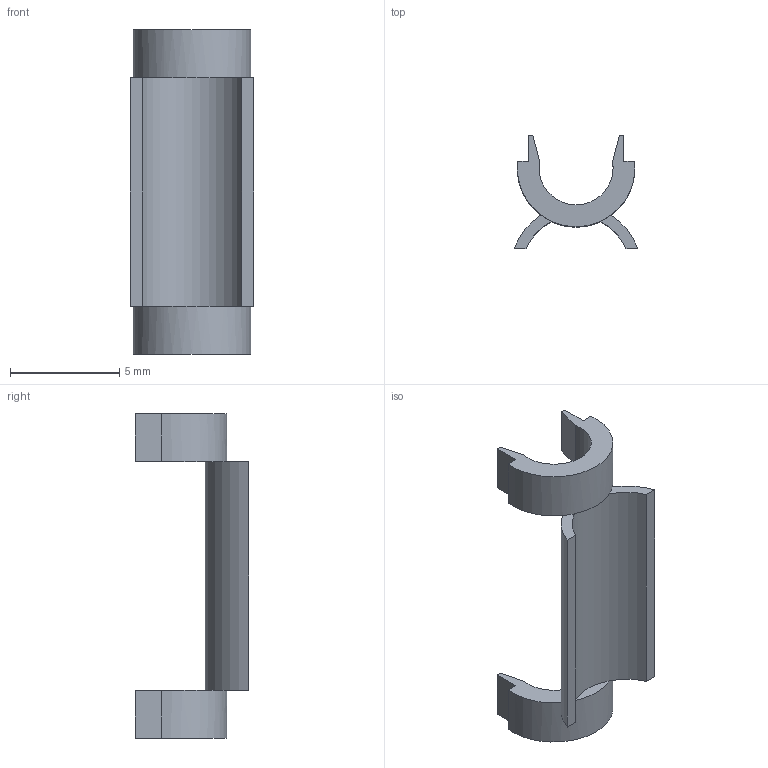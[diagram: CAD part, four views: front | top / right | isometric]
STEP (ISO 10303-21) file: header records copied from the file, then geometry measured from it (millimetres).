
FILE_DESCRIPTION(/* description */ (''),/* implementation_level */ '2;1');
FILE_NAME(/* name */ 'F:\2020 Ver._Content Center\00_Download Data (\X2\FF76FF80FF9BFF78FF9EFF83FF9EFF70FF80FF70\X0\)\25_M4系 ｱｸｾｻﾘ\NHLF04.stp',/* time_stamp */ '2021-05-10T14:03:25+09:00',/* author */ ('TONO-K3-010'),/* organization */ (''),/* preprocessor_version */ 'ST-DEVELOPER v16.5',/* originating_system */ 'Autodesk Inventor 2017',/* authorisation */ 'yamaguchi');
FILE_SCHEMA (('AUTOMOTIVE_DESIGN { 1 0 10303 214 3 1 1 }'));
Length unit declared in the file: millimetre
Products named in the file (1): NHLF04
Bounding box: 5.66 x 5.2 x 14.9 mm (x, y, z)
Volume: 71.4 mm3; surface area: 277.7 mm2
Topology: 1 solids, 1 shells, 36 faces, 92 edges, 58 vertices
Faces by surface type: plane 30, cylinder 6
Entity records: 1118 total; most frequent: DIRECTION 198, CARTESIAN_POINT 187, ORIENTED_EDGE 184, EDGE_CURVE 92, AXIS2_PLACEMENT_3D 69, LINE 60, VECTOR 60, VERTEX_POINT 58
